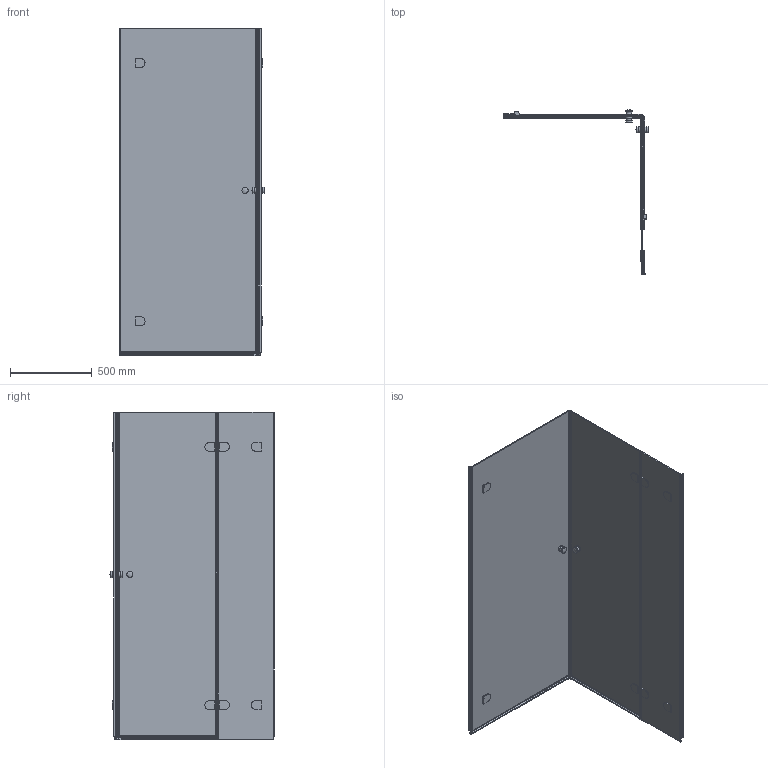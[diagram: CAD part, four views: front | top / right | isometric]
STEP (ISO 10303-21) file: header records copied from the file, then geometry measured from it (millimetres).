
FILE_DESCRIPTION(/* description */ (''),/* implementation_level */ '2;1');
FILE_NAME(/* name */ 'E:\Работа\Сергей\Душевые кабинки\! Работа\888\LUX SQUARE GK-003GC-2511-2522\LUX SQUARE GK-003GC-2511-2522 левая модель\LUX SQUARE GK-003GC-2511-2522 ЛЕВАЯ-3D.stp',/* time_stamp */ '2018-05-31T19:59:00+03:00',/* author */ ('PC'),/* organization */ (''),/* preprocessor_version */ 'ST-DEVELOPER v15.2',/* originating_system */ 'Autodesk Inventor 2014',/* authorisation */ '');
FILE_SCHEMA (('AUTOMOTIVE_DESIGN { 1 0 10303 214 3 1 1 }'));
Length unit declared in the file: millimetre
Products named in the file (1): LUX SQUARE GK-003GC-2511-2522 \X2\041B041504120410042F
\X0\-3D
Bounding box: 892.86 x 1004.36 x 2001 mm (x, y, z)
Volume: 22815176.4 mm3; surface area: 7923274.3 mm2
Topology: 7 solids, 9 shells, 883 faces, 2159 edges, 1328 vertices
Faces by surface type: plane 663, cylinder 197, torus 17, sphere 5, bspline 1
Full cylindrical faces by diameter (mm): 38 x8
Entity records: 26484 total; most frequent: CARTESIAN_POINT 4745, ORIENTED_EDGE 4294, DIRECTION 4276, EDGE_CURVE 2147, LINE 1704, VECTOR 1704, VERTEX_POINT 1328, AXIS2_PLACEMENT_3D 1286
